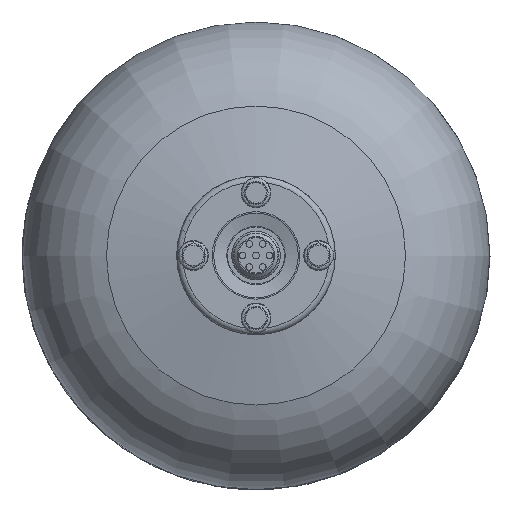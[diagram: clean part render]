
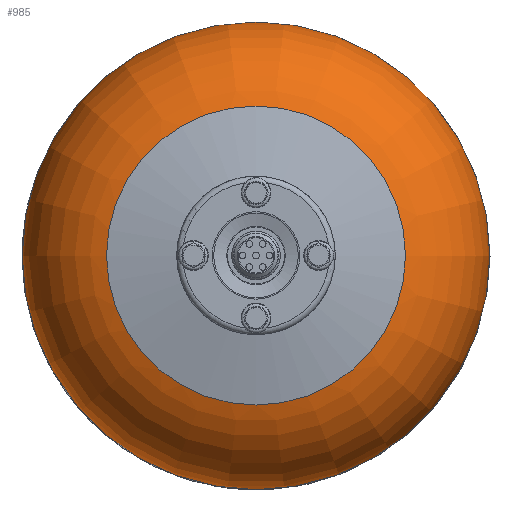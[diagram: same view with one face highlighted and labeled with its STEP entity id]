
A CAD part, top view. The second image highlights one B-rep face of the part: STEP entity #985.
In plain terms, the highlighted toroidal (fillet/blend) face has major radius 70 mm and minor radius 70 mm.
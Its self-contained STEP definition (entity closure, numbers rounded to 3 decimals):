
#985=ADVANCED_FACE('',(#3658,#3660),#3662,.T.);
#3658=FACE_BOUND('',#3659,.T.);
#3659=EDGE_LOOP('',(#5943,#5944));
#3660=FACE_BOUND('',#3661,.T.);
#3661=EDGE_LOOP('',(#5945,#5946));
#3662=DEGENERATE_TOROIDAL_SURFACE('',#3663,70.,70.,.T.);
#3663=AXIS2_PLACEMENT_3D('',#3664,#3665,#3666);
#3664=CARTESIAN_POINT('',(1912.266,0.,117.67));
#3665=DIRECTION('',(0.,0.,1.));
#3666=DIRECTION('',(1.,0.,0.));
#5943=ORIENTED_EDGE('',*,*,#7026,.T.);
#5944=ORIENTED_EDGE('',*,*,#7027,.T.);
#5945=ORIENTED_EDGE('',*,*,#6951,.F.);
#5946=ORIENTED_EDGE('',*,*,#6950,.F.);
#6950=EDGE_CURVE('',#7561,#7562,#7563,.T.);
#6951=EDGE_CURVE('',#7562,#7561,#7564,.T.);
#7026=EDGE_CURVE('',#7665,#7666,#7667,.T.);
#7027=EDGE_CURVE('',#7666,#7665,#7668,.T.);
#7561=VERTEX_POINT('',#9236);
#7562=VERTEX_POINT('',#9237);
#7563=CIRCLE('',#9238,89.6);
#7564=CIRCLE('',#9242,89.6);
#7665=VERTEX_POINT('',#9496);
#7666=VERTEX_POINT('',#9497);
#7667=CIRCLE('',#9498,140.);
#7668=CIRCLE('',#9502,140.);
#9236=CARTESIAN_POINT('',(2001.866,0.,184.87));
#9237=CARTESIAN_POINT('',(1822.666,0.,184.87));
#9238=AXIS2_PLACEMENT_3D('',#9239,#9240,#9241);
#9239=CARTESIAN_POINT('',(1912.266,0.,184.87));
#9240=DIRECTION('',(0.,0.,1.));
#9241=DIRECTION('',(1.,0.,0.));
#9242=AXIS2_PLACEMENT_3D('',#9243,#9244,#9245);
#9243=CARTESIAN_POINT('',(1912.266,0.,184.87));
#9244=DIRECTION('',(0.,0.,1.));
#9245=DIRECTION('',(-1.,0.,0.));
#9496=CARTESIAN_POINT('',(2052.266,0.,117.67));
#9497=CARTESIAN_POINT('',(1772.266,0.,117.67));
#9498=AXIS2_PLACEMENT_3D('',#9499,#9500,#9501);
#9499=CARTESIAN_POINT('',(1912.266,0.,117.67));
#9500=DIRECTION('',(0.,0.,1.));
#9501=DIRECTION('',(1.,0.,0.));
#9502=AXIS2_PLACEMENT_3D('',#9503,#9504,#9505);
#9503=CARTESIAN_POINT('',(1912.266,0.,117.67));
#9504=DIRECTION('',(0.,0.,1.));
#9505=DIRECTION('',(-1.,0.,0.));
